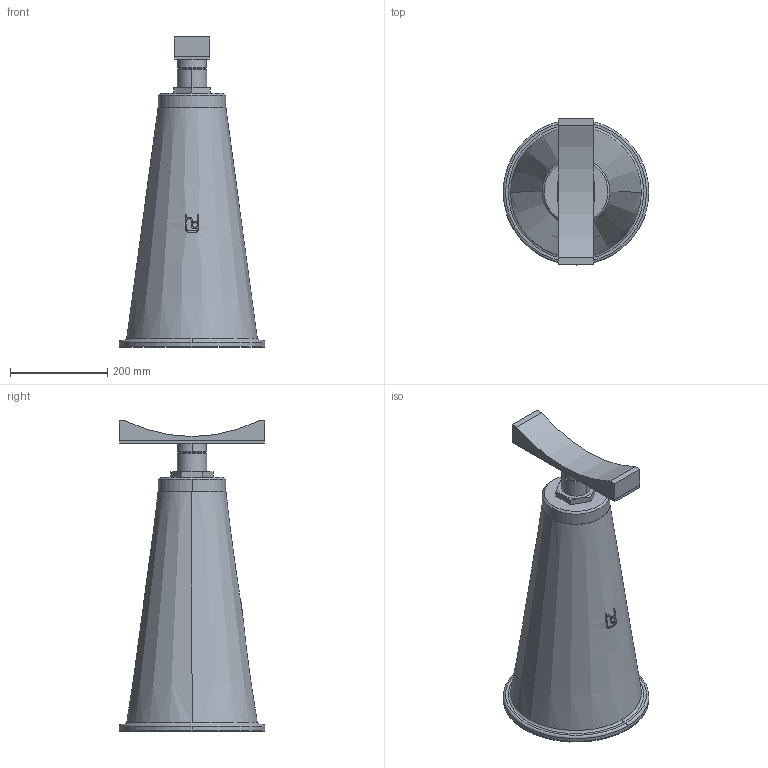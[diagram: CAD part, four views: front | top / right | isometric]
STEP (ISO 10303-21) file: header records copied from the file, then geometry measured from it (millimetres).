
FILE_DESCRIPTION(('STEP AP214'),'1');
FILE_NAME('RSRFC_DN600.stp','2018-06-27T10:12:45',(' '),(' '),'Spatial InterOp 3D',' ',' ');
FILE_SCHEMA(('automotive_design'));
Length unit declared in the file: millimetre
Products named in the file (6): 1; 2; 3; 4; 5; 6
Bounding box: 300 x 300 x 638.11 mm (x, y, z)
Volume: 19082411.4 mm3; surface area: 773512.4 mm2
Topology: 6 solids, 6 shells, 111 faces, 275 edges, 181 vertices
Faces by surface type: plane 50, cylinder 32, cone 21, torus 8
Entity records: 4891 total; most frequent: CARTESIAN_POINT 1235, DIRECTION 559, ORIENTED_EDGE 550, EDGE_CURVE 275, AXIS2_PLACEMENT_3D 215, VERTEX_POINT 181, LINE 129, VECTOR 129
